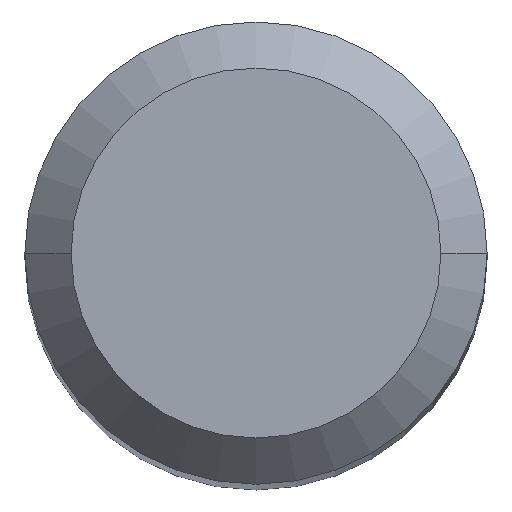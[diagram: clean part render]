
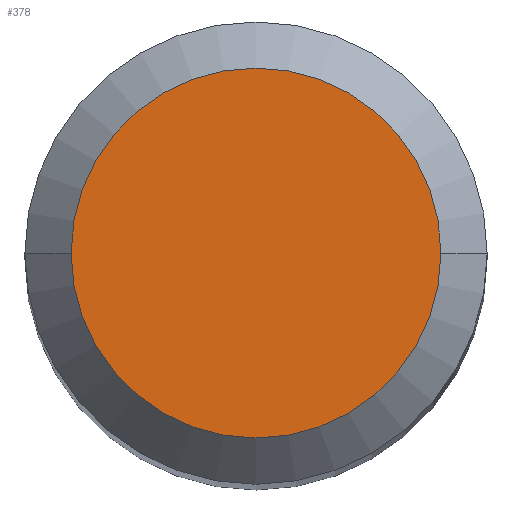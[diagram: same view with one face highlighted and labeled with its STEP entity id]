
A CAD part, top view. The second image highlights one B-rep face of the part: STEP entity #378.
In plain terms, the highlighted planar face has unit normal (0, 0, 1).
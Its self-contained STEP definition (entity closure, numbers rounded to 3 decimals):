
#8 = VERTEX_POINT ( 'NONE', #133 ) ;
#79 = CARTESIAN_POINT ( 'NONE',  ( 0., 2.4, 0. ) ) ;
#117 = ORIENTED_EDGE ( 'NONE', *, *, #533, .F. ) ;
#120 = AXIS2_PLACEMENT_3D ( 'NONE', #79, #316, #185 ) ;
#133 = CARTESIAN_POINT ( 'NONE',  ( -2.4, 0., 0. ) ) ;
#150 = AXIS2_PLACEMENT_3D ( 'NONE', #399, #598, #203 ) ;
#185 = DIRECTION ( 'NONE',  ( 1., 0., 0. ) ) ;
#203 = DIRECTION ( 'NONE',  ( -1., 0., 0. ) ) ;
#284 = AXIS2_PLACEMENT_3D ( 'NONE', #600, #591, #353 ) ;
#286 = EDGE_CURVE ( 'NONE', #8, #388, #464, .T. ) ;
#314 = ORIENTED_EDGE ( 'NONE', *, *, #286, .F. ) ;
#316 = DIRECTION ( 'NONE',  ( 0., 0., 1. ) ) ;
#319 = PLANE ( 'NONE',  #120 ) ;
#353 = DIRECTION ( 'NONE',  ( -1., 0., 0. ) ) ;
#366 = CIRCLE ( 'NONE', #150, 2.4 ) ;
#378 = ADVANCED_FACE ( 'NONE', ( #611 ), #319, .T. ) ;
#388 = VERTEX_POINT ( 'NONE', #410 ) ;
#399 = CARTESIAN_POINT ( 'NONE',  ( 0., 0., 0. ) ) ;
#410 = CARTESIAN_POINT ( 'NONE',  ( 2.4, 0., 0. ) ) ;
#464 = CIRCLE ( 'NONE', #284, 2.4 ) ;
#533 = EDGE_CURVE ( 'NONE', #388, #8, #366, .T. ) ;
#591 = DIRECTION ( 'NONE',  ( 0., 0., -1. ) ) ;
#596 = EDGE_LOOP ( 'NONE', ( #314, #117 ) ) ;
#598 = DIRECTION ( 'NONE',  ( 0., 0., -1. ) ) ;
#600 = CARTESIAN_POINT ( 'NONE',  ( 0., 0., 0. ) ) ;
#611 = FACE_OUTER_BOUND ( 'NONE', #596, .T. ) ;
